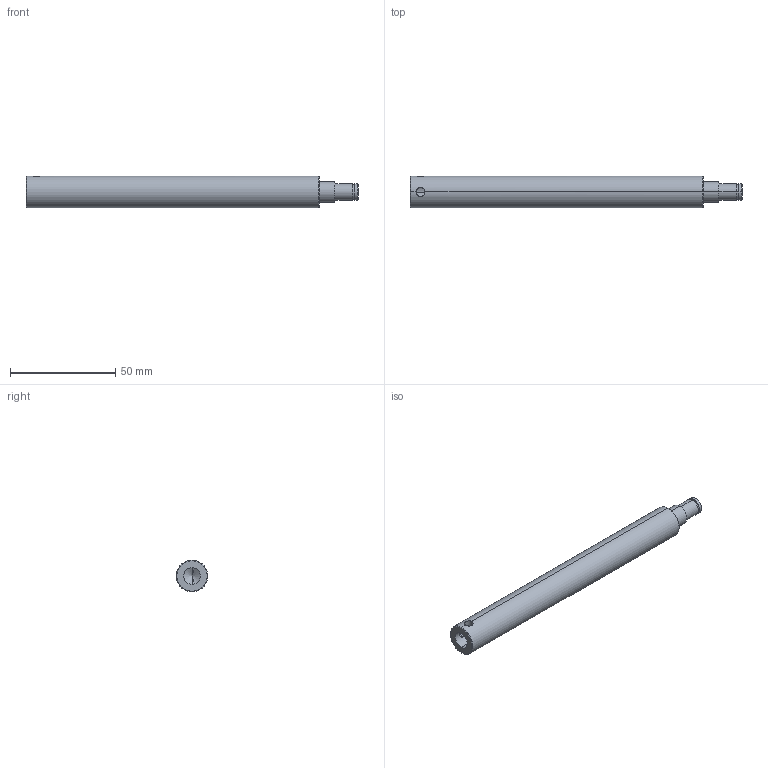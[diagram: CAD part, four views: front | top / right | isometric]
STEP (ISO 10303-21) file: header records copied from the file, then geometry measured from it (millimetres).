
FILE_DESCRIPTION (( 'STEP AP203' ), '1' );
FILE_NAME ('FB-010-10B蛌粣B.STEP', '2025-03-19T04:05:20', ( 'Windows 蚚誧' ), ( 'Organization' ), 'SwSTEP 2.0', 'SolidWorks 2020', '' );
FILE_SCHEMA (( 'CONFIG_CONTROL_DESIGN' ));
Length unit declared in the file: millimetre
Products named in the file (1): FB-010-10B蛌粣B
Bounding box: 157.5 x 15 x 15 mm (x, y, z)
Volume: 24698.6 mm3; surface area: 7855.3 mm2
Topology: 1 solids, 1 shells, 30 faces, 70 edges, 43 vertices
Faces by surface type: cylinder 16, cone 8, plane 6
Entity records: 1145 total; most frequent: CARTESIAN_POINT 380, DIRECTION 148, ORIENTED_EDGE 136, EDGE_CURVE 68, AXIS2_PLACEMENT_3D 61, VERTEX_POINT 43, EDGE_LOOP 37, ADVANCED_FACE 30
